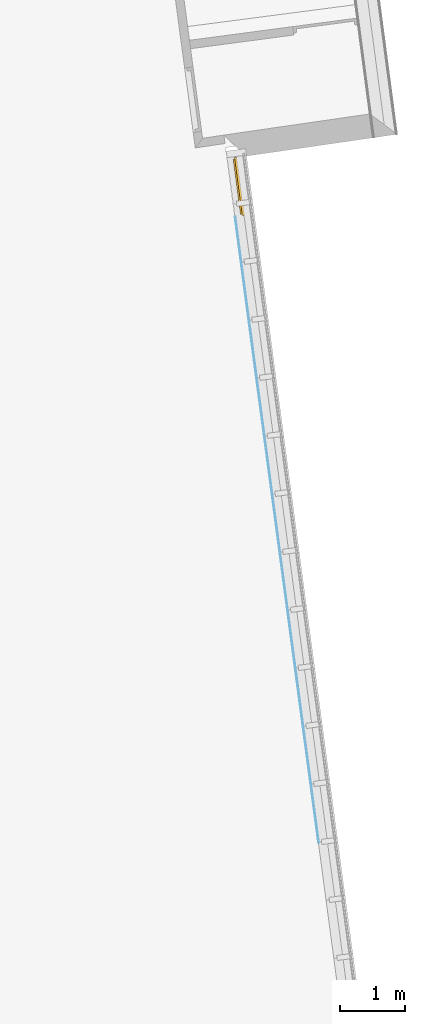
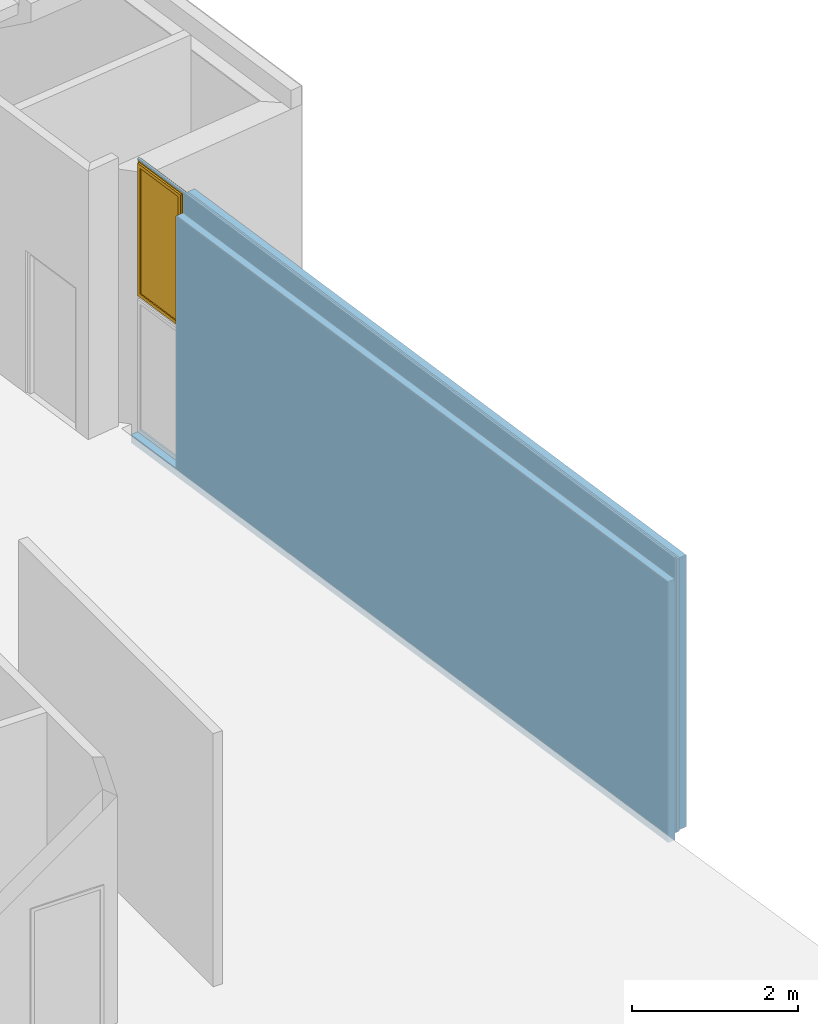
# One storey, part 16 of 17: 1 window, 2 openings, 1 element without a shape of its own, plus 5 elements that do not belong to this part.
"""IFC2X3 building model written with IfcOpenShell, lengths in metres."""

import ifcopenshell
import ifcopenshell.guid

model = None  # the IFC model being written
_history = None  # IfcOwnerHistory: only IFC2X3 demands one
_inside = {}  # id of a spatial element -> (the spatial element, [elements in it])
_under = {}  # id of a project, library or spatial element -> (it, [spatial elements below it])
_declared = {}  # id of a project -> (the project, [libraries it declares])
_typed = {}  # id of a type object -> (the type object, [elements of that type])
_made_of = {}  # id of a material, layer set ... -> (it, [elements and type objects made of it])


def new_model(schema):
    """Start an empty IFC model of exactly this schema.

    Asked for "IFC4X3", IfcOpenShell would pick the latest addendum, in which some entities
    have other attributes; the version numbers below select the first issue.
    IFC2X3 requires an IfcOwnerHistory on every rooted entity: one is made here for all.
    """
    global model, _history
    if schema == "IFC4X3":
        model = ifcopenshell.file(schema_version=(4, 3, 0, 0))
    else:
        model = ifcopenshell.file(schema=schema)
    _inside.clear()
    _under.clear()
    _declared.clear()
    _typed.clear()
    _made_of.clear()
    _history = None
    if model.schema == "IFC2X3":
        org = make("IfcOrganization", Name="unknown")
        user = make(
            "IfcPersonAndOrganization",
            ThePerson=make("IfcPerson", FamilyName="unknown"),
            TheOrganization=org,
        )
        app = make(
            "IfcApplication",
            ApplicationDeveloper=org,
            Version="unknown",
            ApplicationFullName="unknown",
            ApplicationIdentifier="unknown",
        )
        _history = make(
            "IfcOwnerHistory",
            OwningUser=user,
            OwningApplication=app,
            ChangeAction="ADDED",
            CreationDate=0,
        )
    return model


def make(cls, **values):
    """One entity of the class cls with the attributes given. An attribute that is None is left unset."""
    return model.create_entity(
        cls, **{name: value for name, value in values.items() if value is not None}
    )


def entity(cls, *values):
    """Any entity or typed value of the class cls, its attributes in the order of the schema. None: left unset."""
    e = model.create_entity(cls)
    for i, value in enumerate(values):
        if value is not None:
            e[i] = value
    return e


def rooted(cls, **values):
    """An entity with a GlobalId (a new one), such as an element, a storey or a relation."""
    return make(cls, GlobalId=ifcopenshell.guid.new(), OwnerHistory=_history, **values)


def si_unit(unit_type, name, prefix=None):
    """IfcSIUnit, for example si_unit("LENGTHUNIT", "METRE", prefix="MILLI")."""
    return make("IfcSIUnit", UnitType=unit_type, Prefix=prefix, Name=name)


def converted_unit(unit_type, name, factor, base, dimensions=None, offset=None):
    """IfcConversionBasedUnit, such as the inch: factor (a typed value) times the base unit."""
    return make(
        "IfcConversionBasedUnit"
        if offset is None
        else "IfcConversionBasedUnitWithOffset",
        ConversionOffset=offset,
        Dimensions=None
        if dimensions is None
        else entity("IfcDimensionalExponents", *dimensions),
        UnitType=unit_type,
        Name=name,
        ConversionFactor=make(
            "IfcMeasureWithUnit", ValueComponent=factor, UnitComponent=base
        ),
    )


def money_unit(currency):
    """IfcMonetaryUnit."""
    return make("IfcMonetaryUnit", Currency=currency)


def assignment(units):
    """IfcUnitAssignment: the units of a project."""
    return None if units is None else make("IfcUnitAssignment", Units=units)


def point(xyz):
    """IfcCartesianPoint."""
    return None if xyz is None else make("IfcCartesianPoint", Coordinates=xyz)


def direction(xyz):
    """IfcDirection."""
    return None if xyz is None else make("IfcDirection", DirectionRatios=xyz)


def frame(location, z_axis=None, x_axis=None):
    """IfcAxis2Placement3D, a coordinate frame: its origin and axes. An axis left out is left unset."""
    return make(
        "IfcAxis2Placement3D",
        Location=point(location),
        Axis=direction(z_axis),
        RefDirection=direction(x_axis),
    )


def frame_2d(location, x_axis=None):
    """IfcAxis2Placement2D, a coordinate frame in the plane: its origin and x axis."""
    return make(
        "IfcAxis2Placement2D", Location=point(location), RefDirection=direction(x_axis)
    )


def origin_with_axes():
    """The frame at (0, 0, 0) with the z axis (0, 0, 1) and the x axis (1, 0, 0) written out."""
    return frame((0.0, 0.0, 0.0), z_axis=(0.0, 0.0, 1.0), x_axis=(1.0, 0.0, 0.0))


def origin_2d_with_axis():
    """The frame at (0, 0) in the plane with the x axis (1, 0) written out."""
    return frame_2d((0.0, 0.0), x_axis=(1.0, 0.0))


def place(relative_to, where):
    """IfcLocalPlacement: puts the frame where relative to a parent placement (None: the world)."""
    return make(
        "IfcLocalPlacement", PlacementRelTo=relative_to, RelativePlacement=where
    )


def context(
    kind, dimensions, precision=None, world=None, true_north=None, identifier=None
):
    """IfcGeometricRepresentationContext, for example the 3D "Model" context."""
    return make(
        "IfcGeometricRepresentationContext",
        ContextIdentifier=identifier,
        ContextType=kind,
        CoordinateSpaceDimension=dimensions,
        Precision=precision,
        WorldCoordinateSystem=world,
        TrueNorth=true_north,
    )


def subcontext(parent, identifier, kind, view, scale=None):
    """IfcGeometricRepresentationSubContext, for example "Body" below "Model"."""
    return make(
        "IfcGeometricRepresentationSubContext",
        ContextIdentifier=identifier,
        ContextType=kind,
        ParentContext=parent,
        TargetScale=scale,
        TargetView=view,
    )


def project(units=None, contexts=None):
    """IfcProject with its units and contexts."""
    return rooted(
        "IfcProject",
        Name="project",
        RepresentationContexts=contexts,
        UnitsInContext=assignment(units),
    )


def spatial(cls, under=None, at=None, **own):
    """A site, building, storey or space (cls), placed at a placement, below another one or the project."""
    s = rooted(cls, ObjectPlacement=at, **own)
    if under is not None:
        _under.setdefault(under.id(), (under, []))[1].append(s)
    return s


def polyline(points):
    """IfcPolyline through the points."""
    return make("IfcPolyline", Points=[point(p) for p in points])


def profile(cls, at=None, kind="AREA", **sizes):
    """A parametric profile (cls). Its sizes go by their IFC names, for example OverallWidth=200.0."""
    return make(cls, ProfileType=kind, Position=at, **sizes)


def rectangle(**sizes):
    """IfcRectangleProfileDef."""
    return profile("IfcRectangleProfileDef", **sizes)


def outline(outer, holes=None, kind="AREA"):
    """IfcArbitraryClosedProfileDef: a profile drawn as a closed curve; with holes, ...WithVoids."""
    if holes is None:
        return make("IfcArbitraryClosedProfileDef", ProfileType=kind, OuterCurve=outer)
    return make(
        "IfcArbitraryProfileDefWithVoids",
        ProfileType=kind,
        OuterCurve=outer,
        InnerCurves=holes,
    )


def extrude(swept, where, along, depth):
    """IfcExtrudedAreaSolid: the profile swept, set in the frame where, extruded along a direction by depth."""
    return make(
        "IfcExtrudedAreaSolid",
        SweptArea=swept,
        Position=where,
        ExtrudedDirection=direction(along),
        Depth=depth,
    )


def faces_of(points, faces, orient=None, outer=None):
    """IfcFace entities. A face is a list of loops; a loop is a list of indices into points, from 0.

    orient and outer hold one flag for each loop. By default every Orientation is true, the
    first loop of a face is its IfcFaceOuterBound and the others are IfcFaceBound.
    """
    made = []
    for i, loops in enumerate(faces):
        bounds = []
        for j, loop in enumerate(loops):
            is_outer = j == 0 if outer is None else outer[i][j]
            bounds.append(
                make(
                    "IfcFaceOuterBound" if is_outer else "IfcFaceBound",
                    Bound=make("IfcPolyLoop", Polygon=[points[k] for k in loop]),
                    Orientation=True if orient is None else orient[i][j],
                )
            )
        made.append(make("IfcFace", Bounds=bounds))
    return made


def faceted_brep(points, faces, orient=None, outer=None, voids=None):
    """IfcFacetedBrep: a solid bounded by flat faces; with voids (closed shells), ...WithVoids."""
    shared = [point(p) for p in points]
    hull = make("IfcClosedShell", CfsFaces=faces_of(shared, faces, orient, outer))
    if voids is None:
        return make("IfcFacetedBrep", Outer=hull)
    return make(
        "IfcFacetedBrepWithVoids",
        Outer=hull,
        Voids=[
            make(cls, CfsFaces=faces_of(shared, fs, o, b)) for cls, fs, o, b in voids
        ],
    )


def shape(context_of_items, identifier, shape_type, items):
    """IfcShapeRepresentation: the items that make up one representation, for example the "Body"."""
    return make(
        "IfcShapeRepresentation",
        ContextOfItems=context_of_items,
        RepresentationIdentifier=identifier,
        RepresentationType=shape_type,
        Items=items,
    )


def source(mapping_origin, context_of_items, identifier, shape_type, items):
    """IfcRepresentationMap: a shape defined once, which mapped items show again and again."""
    return make(
        "IfcRepresentationMap",
        MappingOrigin=mapping_origin,
        MappedRepresentation=shape(context_of_items, identifier, shape_type, items),
    )


def transform(
    local_origin,
    x_axis=None,
    y_axis=None,
    z_axis=None,
    scale=None,
    scale2=None,
    scale3=None,
    uniform=True,
):
    """IfcCartesianTransformationOperator3D, or its non-uniform kind. x_axis, y_axis, z_axis: its Axis1, 2, 3."""
    if uniform:
        return make(
            "IfcCartesianTransformationOperator3D",
            Axis1=direction(x_axis),
            Axis2=direction(y_axis),
            LocalOrigin=point(local_origin),
            Scale=scale,
            Axis3=direction(z_axis),
        )
    return make(
        "IfcCartesianTransformationOperator3DnonUniform",
        Axis1=direction(x_axis),
        Axis2=direction(y_axis),
        LocalOrigin=point(local_origin),
        Scale=scale,
        Axis3=direction(z_axis),
        Scale2=scale2,
        Scale3=scale3,
    )


def mapped(mapping_source, mapping_target):
    """IfcMappedItem: shows the shape of a source again, moved by a transform."""
    return make(
        "IfcMappedItem", MappingSource=mapping_source, MappingTarget=mapping_target
    )


def material(Name=None, Category=None):
    """IfcMaterial."""
    return make("IfcMaterial", Name=Name, Category=Category)


def material_list(materials):
    """IfcMaterialList."""
    return make("IfcMaterialList", Materials=materials)


def made_of(thing, what):
    """Note that an element or type object is made of a material, layer set ...; save() writes the relation."""
    if what is not None:
        _made_of.setdefault(what.id(), (what, []))[1].append(thing)
    return thing


def type_object(cls, material=None, **own):
    """A type object (cls), such as IfcWallType, which elements share."""
    return made_of(rooted(cls, **own), material)


def element(
    cls,
    number,
    at=None,
    inside=None,
    cuts=None,
    type_object=None,
    material=None,
    context=None,
    identifier="Body",
    shape_type=None,
    held_by="IfcProductDefinitionShape",
    body=None,
    shapes=None,
    **own,
):
    """One element of the class cls, such as IfcWall. Its Tag is "e" and its number.

    at: its placement. inside: the storey or other place that contains it. cuts: it is an
    opening in that element (IfcRelVoidsElement). A single representation is given by context,
    identifier, shape_type and body (its items); several are given by shapes. held_by: the class
    of the entity that holds the representations. save() writes the other relations.
    """
    e = rooted(cls, Tag="e%d" % number, ObjectPlacement=at, **own)
    if body is not None:
        shapes = [shape(context, identifier, shape_type, body)]
    if shapes is not None:
        e.Representation = make(held_by, Representations=shapes)
    if inside is not None:
        _inside.setdefault(inside.id(), (inside, []))[1].append(e)
    if cuts is not None:
        rooted(
            "IfcRelVoidsElement", RelatingBuildingElement=cuts, RelatedOpeningElement=e
        )
    if type_object is not None:
        _typed.setdefault(type_object.id(), (type_object, []))[1].append(e)
    return made_of(e, material)


def fill(opening, filler):
    """IfcRelFillsElement: the door or window that sits in an opening."""
    return rooted(
        "IfcRelFillsElement",
        RelatingOpeningElement=opening,
        RelatedBuildingElement=filler,
    )


def aggregate(whole, parts):
    """IfcRelAggregates: a whole, such as a stair, and the parts it consists of."""
    return rooted("IfcRelAggregates", RelatingObject=whole, RelatedObjects=parts)


def save(model, path):
    """Write the relations noted so far, then the file.

    IfcRelAggregates (storeys below a building ...), IfcRelContainedInSpatialStructure (elements
    in a storey), IfcRelDefinesByType, IfcRelAssociatesMaterial and IfcRelDeclares: one each for
    every whole, place, type object, material and project.
    """
    for whole, parts in _under.values():
        aggregate(whole, parts)
    for where, things in _inside.values():
        rooted(
            "IfcRelContainedInSpatialStructure",
            RelatedElements=things,
            RelatingStructure=where,
        )
    for kind, things in _typed.values():
        rooted("IfcRelDefinesByType", RelatedObjects=things, RelatingType=kind)
    for what, things in _made_of.values():
        rooted("IfcRelAssociatesMaterial", RelatedObjects=things, RelatingMaterial=what)
    for by, libraries in _declared.values():
        rooted("IfcRelDeclares", RelatingContext=by, RelatedDefinitions=libraries)
    model.write(path)


model = new_model("IFC2X3")

# Units and contexts
model_context = context("Model", 3, precision=1e-05, world=origin_with_axes(), true_north=direction((0.0, 1.0)))
body_context = subcontext(model_context, "Body", "Model", "MODEL_VIEW")
ifc_project = project(units=[si_unit("LENGTHUNIT", "METRE"), si_unit("AREAUNIT", "SQUARE_METRE"), si_unit("VOLUMEUNIT", "CUBIC_METRE"), converted_unit("PLANEANGLEUNIT", "DEGREE", entity("IfcPlaneAngleMeasure", 0.0174532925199), si_unit("PLANEANGLEUNIT", "RADIAN"), dimensions=[0, 0, 0, 0, 0, 0, 0]), si_unit("SOLIDANGLEUNIT", "STERADIAN"), money_unit("EUR"), converted_unit("TIMEUNIT", "Year", entity("IfcTimeMeasure", 31556926.0), si_unit("TIMEUNIT", "SECOND"), dimensions=[0, 0, 0, 0, 0, 0, 0]), si_unit("MASSUNIT", "GRAM"), si_unit("THERMODYNAMICTEMPERATUREUNIT", "DEGREE_CELSIUS"), si_unit("LUMINOUSINTENSITYUNIT", "LUMEN")], contexts=[model_context])

# Site, building, storey
site_placement = place(None, origin_with_axes())
site = spatial("IfcSite", under=ifc_project, at=site_placement, Name="Undefined", CompositionType="ELEMENT")
building_placement = place(site_placement, origin_with_axes())
building = spatial("IfcBuilding", under=site, at=building_placement, Name="Undefined", CompositionType="ELEMENT")
storey_placement = place(building_placement, frame((0.0, 0.0, 9.425), z_axis=(0.0, 0.0, 1.0), x_axis=(1.0, 0.0, 0.0)))
storey = spatial("IfcBuildingStorey", under=building, at=storey_placement, Name="Mezzannine", CompositionType="ELEMENT", Elevation=9.425)

# Window
ifc_material_1 = material(Name="Background")
ifc_material_2 = material(Name="Air Space")
ifc_material_3 = material(Name="Rigid Insulation")
ifc_material_list = material_list([ifc_material_1, ifc_material_2, ifc_material_1, ifc_material_1, ifc_material_1, ifc_material_3, ifc_material_1, ifc_material_1, ifc_material_1, ifc_material_1, ifc_material_2, ifc_material_1, ifc_material_1])
window_style = type_object("IfcWindowStyle", Name="Fen\x90tre 18", ConstructionType="NOTDEFINED", OperationType="SINGLE_PANEL", ParameterTakesPrecedence=False, Sizeable=False)
shared_shape = source(origin_with_axes(), body_context, "Body", "Brep", [
    faceted_brep([(0.425, 0.0, 1.975), (0.425, -0.025, 1.975), (0.4, -0.025, 1.95), (0.4, -0.05, 1.95), (0.45, -0.05, 2.0), (0.45, 0.0, 2.0), (0.425, 0.0, 0.025), (0.425, -0.025, 0.025), (0.4, -0.025, 0.05), (0.4, -0.05, 0.05), (0.45, -0.05, 0.0), (0.45, 0.0, 0.0)], [[[0, 1, 2, 3, 4, 5]], [[0, 6, 7, 1]], [[8, 2, 1, 7]], [[2, 8, 9, 3]], [[3, 9, 10, 4]], [[4, 10, 11, 5]], [[6, 0, 5, 11]], [[7, 6, 11, 10, 9, 8]]]),
    faceted_brep([(-0.4, -0.025, 1.95), (-0.425, -0.025, 1.975), (-0.425, 0.0, 1.975), (-0.45, 0.0, 2.0), (-0.45, -0.05, 2.0), (-0.4, -0.05, 1.95), (-0.4, -0.025, 0.05), (-0.425, -0.025, 0.025), (-0.425, 0.0, 0.025), (-0.45, 0.0, 0.0), (-0.45, -0.05, 0.0), (-0.4, -0.05, 0.05)], [[[0, 1, 2, 3, 4, 5]], [[1, 0, 6, 7]], [[8, 2, 1, 7]], [[2, 8, 9, 3]], [[10, 4, 3, 9]], [[11, 5, 4, 10]], [[6, 0, 5, 11]], [[7, 6, 11, 10, 9, 8]]]),
    faceted_brep([(-0.4, -0.025, 0.05), (-0.425, -0.025, 0.025), (-0.425, 0.0, 0.025), (-0.45, 0.0, 0.0), (-0.45, -0.05, 0.0), (-0.4, -0.05, 0.05), (0.4, -0.025, 0.05), (0.425, -0.025, 0.025), (0.425, 0.0, 0.025), (0.45, 0.0, 0.0), (0.45, -0.05, 0.0), (0.4, -0.05, 0.05)], [[[0, 1, 2, 3, 4, 5]], [[1, 0, 6, 7]], [[8, 2, 1, 7]], [[2, 8, 9, 3]], [[10, 4, 3, 9]], [[11, 5, 4, 10]], [[6, 0, 5, 11]], [[7, 6, 11, 10, 9, 8]]]),
    faceted_brep([(0.425, 0.0, 1.975), (-0.425, 0.0, 1.975), (-0.45, 0.0, 2.0), (0.45, 0.0, 2.0), (0.425, -0.025, 1.975), (-0.425, -0.025, 1.975), (-0.4, -0.025, 1.95), (-0.4, -0.05, 1.95), (-0.45, -0.05, 2.0), (0.45, -0.05, 2.0), (0.4, -0.05, 1.95), (0.4, -0.025, 1.95)], [[[0, 1, 2, 3]], [[1, 0, 4, 5]], [[5, 6, 7, 8, 2, 1]], [[8, 9, 3, 2]], [[4, 0, 3, 9, 10, 11]], [[6, 5, 4, 11]], [[6, 11, 10, 7]], [[7, 10, 9, 8]]]),
    faceted_brep([(0.375, -0.025, 1.925), (0.425, -0.025, 1.975), (0.425, 0.025, 1.975), (0.375, 0.025, 1.925), (0.375, -0.025, 0.075), (0.425, -0.025, 0.025), (0.425, 0.025, 0.025), (0.375, 0.025, 0.075)], [[[0, 1, 2, 3]], [[0, 4, 5, 1]], [[1, 5, 6, 2]], [[3, 2, 6, 7]], [[4, 0, 3, 7]], [[5, 4, 7, 6]]]),
    faceted_brep([(-0.375, -0.025, 0.075), (-0.425, -0.025, 0.025), (-0.425, 0.025, 0.025), (-0.375, 0.025, 0.075), (-0.375, -0.025, 1.925), (-0.425, -0.025, 1.975), (-0.425, 0.025, 1.975), (-0.375, 0.025, 1.925)], [[[0, 1, 2, 3]], [[0, 4, 5, 1]], [[1, 5, 6, 2]], [[3, 2, 6, 7]], [[4, 0, 3, 7]], [[5, 4, 7, 6]]]),
    faceted_brep([(-0.425, -0.025, 0.025), (-0.375, -0.025, 0.075), (-0.375, 0.025, 0.075), (-0.425, 0.025, 0.025), (0.425, -0.025, 0.025), (0.375, -0.025, 0.075), (0.375, 0.025, 0.075), (0.425, 0.025, 0.025)], [[[0, 1, 2, 3]], [[0, 4, 5, 1]], [[1, 5, 6, 2]], [[3, 2, 6, 7]], [[4, 0, 3, 7]], [[5, 4, 7, 6]]]),
    faceted_brep([(0.425, -0.025, 1.975), (0.375, -0.025, 1.925), (0.375, 0.025, 1.925), (0.425, 0.025, 1.975), (-0.425, -0.025, 1.975), (-0.375, -0.025, 1.925), (-0.375, 0.025, 1.925), (-0.425, 0.025, 1.975)], [[[0, 1, 2, 3]], [[0, 4, 5, 1]], [[1, 5, 6, 2]], [[3, 2, 6, 7]], [[4, 0, 3, 7]], [[5, 4, 7, 6]]]),
    faceted_brep([(0.375, -0.01, 0.075), (-0.375, -0.01, 0.075), (-0.375, 0.01, 0.075), (0.375, 0.01, 0.075), (0.375, -0.01, 1.925), (-0.375, -0.01, 1.925), (-0.375, 0.01, 1.925), (0.375, 0.01, 1.925)], [[[0, 1, 2, 3]], [[0, 4, 5, 1]], [[1, 5, 6, 2]], [[3, 2, 6, 7]], [[4, 0, 3, 7]], [[5, 4, 7, 6]]]),
])
wall_placement = place(storey_placement, frame((67.426098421, 9.33793716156, 0.0), z_axis=(0.0, 0.0, 1.0), x_axis=(-0.132256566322, 0.991215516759, 0.0)))
opening_2_placement = place(wall_placement, frame((10.1631166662, 0.0, 2.0), z_axis=(0.0, 0.0, 1.0), x_axis=(1.0, 0.0, 0.0)))
window_placement = place(opening_2_placement, frame((-0.45, 0.0, 0.0), z_axis=(0.0, 0.0, 1.0), x_axis=(1.0, 0.0, 0.0)))
window = element("IfcWindow", 1, at=window_placement, inside=storey, type_object=window_style, material=ifc_material_list, Name="WD - 004", OverallHeight=2.0, OverallWidth=0.9, context=body_context, shape_type="MappedRepresentation", body=[
    mapped(shared_shape, transform((0.45, 0.17, 0.0))),
])

# Wall, openings
wall_type = type_object("IfcWallType", Name="Profil personnalis\x8e 287 x 4150", PredefinedType="NOTDEFINED")
wall = element("IfcWall", 2, at=wall_placement, inside=storey, type_object=wall_type, Name="SW - 012", ObjectType="WALL")
opening_1_placement = place(wall_placement, frame((10.1631166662, 0.0, 0.0), z_axis=(0.0, 0.0, 1.0), x_axis=(1.0, 0.0, 0.0)))
element("IfcOpeningElement", 3, at=opening_1_placement, cuts=wall, Name="WD - 004", context=body_context, shape_type="SweptSolid", body=[
    extrude(rectangle(XDim=0.9, YDim=2.0, at=origin_2d_with_axis()), frame((0.0, 0.574, 1.0), z_axis=(0.0, 1.0, 0.0), x_axis=(-1.0, 0.0, 0.0)), (0.0, 0.0, -1.0), 0.454),
    extrude(rectangle(XDim=0.9, YDim=2.0, at=origin_2d_with_axis()), frame((0.0, -0.287, 1.0), z_axis=(0.0, -1.0, 0.0), x_axis=(-1.0, 0.0, 0.0)), (0.0, 0.0, -1.0), 0.407),
])
opening_2 = element("IfcOpeningElement", 4, at=opening_2_placement, cuts=wall, Name="WD - 004", context=body_context, shape_type="SweptSolid", body=[
    extrude(rectangle(XDim=0.9, YDim=2.0, at=origin_2d_with_axis()), frame((0.0, 0.574, 1.0), z_axis=(0.0, 1.0, 0.0), x_axis=(-1.0, 0.0, 0.0)), (0.0, 0.0, -1.0), 0.454),
    extrude(rectangle(XDim=0.9, YDim=2.0, at=origin_2d_with_axis()), frame((0.0, -0.287, 1.0), z_axis=(0.0, -1.0, 0.0), x_axis=(-1.0, 0.0, 0.0)), (0.0, 0.0, -1.0), 0.407),
])

fill(opening_2, window)

# Building element part
ifc_material_4 = material(Name="Finition int - Enduit pl\x89tre")
building_element_part_1_placement = place(wall_placement, origin_with_axes())
building_element_part_1 = element("IfcBuildingElementPart", 5, at=building_element_part_1_placement, material=ifc_material_4, context=body_context, shape_type="SweptSolid", body=[
    extrude(outline(polyline([(-0.1, 0.0), (0.0, 0.0), (0.0, 4.0), (-0.1, 4.0), (-0.1, 0.0)])), frame((0.0, 0.0, 0.0), z_axis=(-1.0, 0.0, 0.0), x_axis=(0.0, -1.0, 0.0)), (0.0, 0.0, -1.0), 10.6131166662),
])

ifc_material_5 = material(Name="Lame d'air")
building_element_part_2_placement = place(wall_placement, origin_with_axes())
building_element_part_2 = element("IfcBuildingElementPart", 6, at=building_element_part_2_placement, material=ifc_material_5, context=body_context, shape_type="SweptSolid", body=[
    extrude(outline(polyline([(-0.15, -0.02), (-0.1, -0.02), (-0.1, 4.0), (-0.15, 4.0), (-0.15, -0.02)])), frame((0.0, 0.0, 0.0), z_axis=(-1.0, 0.0, 0.0), x_axis=(0.0, -1.0, 0.0)), (0.0, 0.0, -1.0), 10.6131166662),
])

ifc_material_6 = material(Name="Isolation - Laine de verre")
building_element_part_3_placement = place(wall_placement, origin_with_axes())
building_element_part_3 = element("IfcBuildingElementPart", 7, at=building_element_part_3_placement, material=ifc_material_6, context=body_context, shape_type="SweptSolid", body=[
    extrude(outline(polyline([(-0.175, -0.02), (-0.15, -0.02), (-0.15, 4.03), (-0.175, 4.03), (-0.175, -0.02)])), frame((0.0, 0.0, 0.0), z_axis=(-1.0, 0.0, 0.0), x_axis=(0.0, -1.0, 0.0)), (0.0, 0.0, -1.0), 10.6131166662),
])

ifc_material_7 = material(Name="Struct. - B.A. banch\x8e")
building_element_part_4_placement = place(wall_placement, origin_with_axes())
building_element_part_4 = element("IfcBuildingElementPart", 8, at=building_element_part_4_placement, material=ifc_material_7, context=body_context, shape_type="SweptSolid", body=[
    extrude(outline(polyline([(-0.275, -0.12), (-0.175, -0.12), (-0.175, 3.72), (-0.275, 3.72), (-0.275, -0.12)])), frame((0.0, 0.0, 0.0), z_axis=(-1.0, 0.0, 0.0), x_axis=(0.0, -1.0, 0.0)), (0.0, 0.0, -1.0), 10.6131166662),
])

ifc_material_8 = material(Name="Finition int - Enduit min\x8eral")
building_element_part_5_placement = place(wall_placement, origin_with_axes())
building_element_part_5 = element("IfcBuildingElementPart", 9, at=building_element_part_5_placement, material=ifc_material_8, context=body_context, shape_type="SweptSolid", body=[
    extrude(outline(polyline([(-0.287, 0.0), (-0.275, 0.0), (-0.275, 3.72), (-0.287, 3.72), (-0.287, 0.0)])), frame((0.0, 0.0, 0.0), z_axis=(-1.0, 0.0, 0.0), x_axis=(0.0, -1.0, 0.0)), (0.0, 0.0, -1.0), 10.6131166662),
])

aggregate(wall, [building_element_part_1, building_element_part_2, building_element_part_3, building_element_part_4, building_element_part_5])

save(model, "model.ifc")
